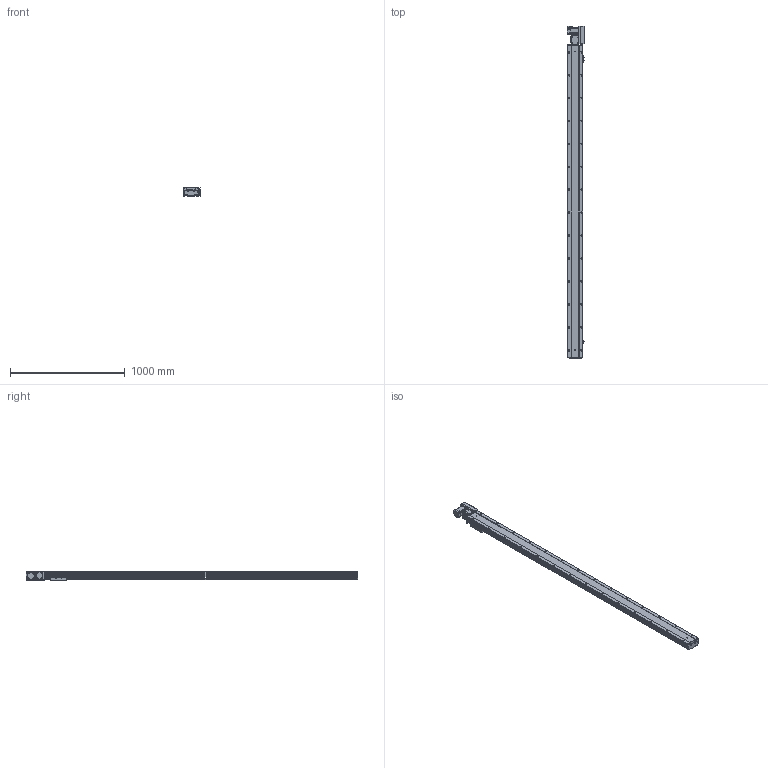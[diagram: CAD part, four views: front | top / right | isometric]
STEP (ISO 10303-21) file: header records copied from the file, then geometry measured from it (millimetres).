
FILE_DESCRIPTION (( 'STEP AP203' ), '1' );
FILE_NAME ('245.STEP', '2022-07-20T12:09:00', ( '' ), ( '' ), 'SwSTEP 2.0', 'SolidWorks 2016', '' );
FILE_SCHEMA (( 'CONFIG_CONTROL_DESIGN' ));
Length unit declared in the file: millimetre
Products named in the file (10): BTB14-L-M40; BTB14-L-HZ; BTB14-L-04; BTB14-L-06; BTB14-L-菁釱_XD; BTB14-L-24; BTB14-L-01; 245; BTB14-L-23; BTB14-L-02
Assembly tree (12 placements, depth 2):
  245
    BTB14-L-菁釱_XD
    BTB14-L-01
    BTB14-L-02
    BTB14-L-04  x3
    BTB14-L-06
    BTB14-L-23  x2
    BTB14-L-24
    BTB14-L-HZ
    BTB14-L-M40
Bounding box: 148.7 x 2893.5 x 78 mm (x, y, z)
Volume: 12121387.3 mm3; surface area: 2495842.1 mm2
Topology: 22 solids, 22 shells, 1702 faces, 4501 edges, 2854 vertices
Faces by surface type: plane 937, cylinder 520, cone 156, bspline 77, torus 12
Entity records: 45402 total; most frequent: CARTESIAN_POINT 11005, DIRECTION 6896, ORIENTED_EDGE 6860, EDGE_CURVE 3430, AXIS2_PLACEMENT_3D 2303, VECTOR 2290, LINE 2290, VERTEX_POINT 2232
